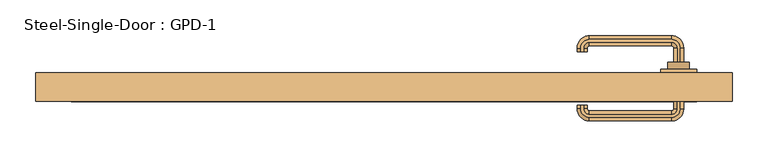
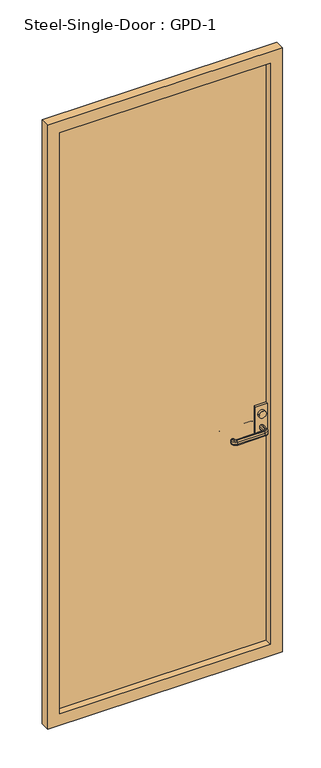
"""IFC4 building model written with IfcOpenShell, lengths in millimetres: door geometry, Steel-Single-Door : GPD-1."""

from ifc_helpers import new_model, si_unit, point, frame, frame_2d, origin, place, context, project, spatial, polyline, circle_curve, ellipse_curve, trimmed, segment, composite_curve, outline, extrude, source, transform, mapped, element, save
from ifc_brep_helpers import plane_surface, cylinder_surface, revolved_surface, advanced_brep


def steel_single_door_gpd_1_6503526e(model_context):
    return source(origin(), model_context, "Body", "SolidModel", [
        extrude(outline(composite_curve([segment(trimmed(circle_curve(frame_2d((1060.1793562, 412.5)), 15.0), [point((1060.1793562, 397.5))], [point((1060.1793562, 427.5))], False, "CARTESIAN"), True, "CONTINUOUS"), segment(trimmed(circle_curve(frame_2d((1060.1793562, 412.5)), 15.0), [point((1060.1793562, 427.5))], [point((1060.1793562, 397.5))], False, "CARTESIAN"), True, "CONTINUOUS")], self_intersect=False)), frame((0.0, 55.0, 0.0), z_axis=(0.0, 1.0, 0.0), x_axis=(0.0, 0.0, 1.0)), (0.0, 0.0, 1.0), 10.0),
        extrude(outline(composite_curve([segment(trimmed(circle_curve(frame_2d((1060.1793562, 412.5)), 15.0), [point((1060.1793562, 427.5))], [point((1060.1793562, 397.5))], False, "CARTESIAN"), True, "CONTINUOUS"), segment(trimmed(circle_curve(frame_2d((1060.1793562, 412.5)), 15.0), [point((1060.1793562, 397.5))], [point((1060.1793562, 427.5))], False, "CARTESIAN"), True, "CONTINUOUS")], self_intersect=False)), frame((0.0, 20.0, 0.0), z_axis=(0.0, 1.0, 0.0), x_axis=(0.0, 0.0, 1.0)), (0.0, 0.0, 1.0), 10.0),
        advanced_brep(
        [(414.5, 55.0, 1010.0), (410.5, 55.0, 1010.0), (405.5, 55.0, 1005.0), (405.5, 55.0, 995.0477623), (410.5, 55.0, 990.0477623), (414.5, 55.0, 990.0477623), (419.5, 55.0, 995.0477623), (419.5, 55.0, 1005.0), (419.5, 85.0, 1005.0), (414.5, 85.0, 1010.0), (419.5, 85.0, 995.0477623), (414.5, 85.0, 990.0477623), (410.5, 85.0, 990.0477623), (402.5, 93.0, 990.0477623), (287.5, 93.0, 990.0477623), (279.5, 85.0, 990.0477623), (279.5, 80.0, 990.0477623), (275.5, 80.0, 990.0477623), (275.5, 85.0, 990.0477623), (287.5, 97.0, 990.0477623), (402.5, 97.0, 990.0477623), (405.5, 85.0, 995.0477623), (405.5, 85.0, 1005.0), (410.5, 85.0, 1010.0), (402.5, 97.0, 1010.0), (287.5, 97.0, 1010.0), (275.5, 85.0, 1010.0), (275.5, 80.0, 1010.0), (279.5, 80.0, 1010.0), (279.5, 85.0, 1010.0), (287.5, 93.0, 1010.0), (402.5, 93.0, 1010.0), (402.5, 102.0, 1005.0), (402.5, 102.0, 995.0477623), (402.5, 88.0, 995.0477623), (402.5, 88.0, 1005.0), (287.5, 102.0, 1005.0), (287.5, 102.0, 995.0477623), (287.5, 88.0, 995.0477623), (287.5, 88.0, 1005.0), (270.5, 85.0, 1005.0), (270.5, 85.0, 995.0477623), (284.5, 85.0, 995.0477623), (284.5, 85.0, 1005.0), (270.5, 80.0, 1005.0), (270.5, 80.0, 995.0477623), (284.5, 80.0, 995.0477623), (284.5, 80.0, 1005.0)],
        [
            (0, 1),
            (1, 2, circle_curve(frame((410.5, 55.0, 1005.0), z_axis=(0.0, -1.0, 0.0), x_axis=(1.0, 0.0, 0.0)), 5.0)),
            (2, 3),
            (3, 4, circle_curve(frame((410.5, 55.0, 995.0477623), z_axis=(0.0, -1.0, 0.0), x_axis=(1.0, 0.0, 0.0)), 5.0)),
            (4, 5),
            (5, 6, circle_curve(frame((414.5, 55.0, 995.0477623), z_axis=(0.0, -1.0, 0.0), x_axis=(1.0, 0.0, 0.0)), 5.0)),
            (6, 7),
            (7, 0, circle_curve(frame((414.5, 55.0, 1005.0), z_axis=(0.0, -1.0, 0.0), x_axis=(1.0, 0.0, 0.0)), 5.0)),
            (7, 8),
            (8, 9, circle_curve(frame((414.5, 85.0, 1005.0), z_axis=(0.0, -1.0, 0.0), x_axis=(1.0, 0.0, 0.0)), 5.0)),
            (9, 0),
            (6, 10),
            (10, 8),
            (5, 11),
            (11, 10, circle_curve(frame((414.5, 85.0, 995.0477623), z_axis=(0.0, -1.0, 0.0), x_axis=(1.0, 0.0, 0.0)), 5.0)),
            (4, 12),
            (12, 13, circle_curve(frame((402.5, 85.0, 990.0477623), z_axis=(0.0, 0.0, 1.0), x_axis=(1.0, 0.0, 0.0)), 8.0)),
            (13, 14),
            (14, 15, circle_curve(frame((287.5, 85.0, 990.0477623), z_axis=(0.0, 0.0, 1.0), x_axis=(0.0, 1.0, 0.0)), 8.0)),
            (15, 16),
            (16, 17),
            (17, 18),
            (18, 19, circle_curve(frame((287.5, 85.0, 990.0477623), z_axis=(0.0, 0.0, -1.0), x_axis=(0.0, 1.0, 0.0)), 12.0)),
            (19, 20),
            (20, 11, circle_curve(frame((402.5, 85.0, 990.0477623), z_axis=(0.0, 0.0, -1.0), x_axis=(1.0, 0.0, 0.0)), 12.0)),
            (3, 21),
            (21, 12, circle_curve(frame((410.5, 85.0, 995.0477623), z_axis=(0.0, -1.0, 0.0), x_axis=(1.0, 0.0, 0.0)), 5.0)),
            (2, 22),
            (22, 21),
            (1, 23),
            (23, 22, circle_curve(frame((410.5, 85.0, 1005.0), z_axis=(0.0, -1.0, 0.0), x_axis=(1.0, 0.0, 0.0)), 5.0)),
            (9, 24, circle_curve(frame((402.5, 85.0, 1010.0), z_axis=(0.0, 0.0, 1.0), x_axis=(1.0, 0.0, 0.0)), 12.0)),
            (24, 25),
            (25, 26, circle_curve(frame((287.5, 85.0, 1010.0), z_axis=(0.0, 0.0, 1.0), x_axis=(0.0, 1.0, 0.0)), 12.0)),
            (26, 27),
            (27, 28),
            (28, 29),
            (29, 30, circle_curve(frame((287.5, 85.0, 1010.0), z_axis=(0.0, 0.0, -1.0), x_axis=(0.0, 1.0, 0.0)), 8.0)),
            (30, 31),
            (31, 23, circle_curve(frame((402.5, 85.0, 1010.0), z_axis=(0.0, 0.0, -1.0), x_axis=(1.0, 0.0, 0.0)), 8.0)),
            (32, 24, circle_curve(frame((402.5, 97.0, 1005.0), z_axis=(1.0, 0.0, 0.0), x_axis=(0.0, 1.0, 0.0)), 5.0)),
            (8, 32, circle_curve(frame((402.5, 85.0, 1005.0), z_axis=(0.0, 0.0, 1.0), x_axis=(1.0, 0.0, 0.0)), 17.0)),
            (33, 32),
            (10, 33, circle_curve(frame((402.5, 85.0, 995.0477623), z_axis=(0.0, 0.0, 1.0), x_axis=(1.0, 0.0, 0.0)), 17.0)),
            (20, 33, circle_curve(frame((402.5, 97.0, 995.0477623), z_axis=(1.0, 0.0, 0.0), x_axis=(0.0, 1.0, 0.0)), 5.0)),
            (34, 13, circle_curve(frame((402.5, 93.0, 995.0477623), z_axis=(1.0, 0.0, 0.0), x_axis=(0.0, 1.0, 0.0)), 5.0)),
            (21, 34, circle_curve(frame((402.5, 85.0, 995.0477623), z_axis=(0.0, 0.0, 1.0), x_axis=(1.0, 0.0, 0.0)), 3.0)),
            (35, 34),
            (22, 35, circle_curve(frame((402.5, 85.0, 1005.0), z_axis=(0.0, 0.0, 1.0), x_axis=(1.0, 0.0, 0.0)), 3.0)),
            (31, 35, circle_curve(frame((402.5, 93.0, 1005.0), z_axis=(1.0, 0.0, 0.0), x_axis=(0.0, 1.0, 0.0)), 5.0)),
            (32, 36),
            (36, 25, circle_curve(frame((287.5, 97.0, 1005.0), z_axis=(1.0, 0.0, 0.0), x_axis=(0.0, 1.0, 0.0)), 5.0)),
            (33, 37),
            (37, 36),
            (19, 37, circle_curve(frame((287.5, 97.0, 995.0477623), z_axis=(1.0, 0.0, 0.0), x_axis=(0.0, 1.0, 0.0)), 5.0)),
            (34, 38),
            (38, 14, circle_curve(frame((287.5, 93.0, 995.0477623), z_axis=(1.0, 0.0, 0.0), x_axis=(0.0, 1.0, 0.0)), 5.0)),
            (35, 39),
            (39, 38),
            (30, 39, circle_curve(frame((287.5, 93.0, 1005.0), z_axis=(1.0, 0.0, 0.0), x_axis=(0.0, 1.0, 0.0)), 5.0)),
            (40, 26, circle_curve(frame((275.5, 85.0, 1005.0), z_axis=(0.0, 1.0, 0.0), x_axis=(-1.0, 0.0, 0.0)), 5.0)),
            (36, 40, circle_curve(frame((287.5, 85.0, 1005.0), z_axis=(0.0, 0.0, 1.0), x_axis=(0.0, 1.0, 0.0)), 17.0)),
            (41, 40),
            (37, 41, circle_curve(frame((287.5, 85.0, 995.0477623), z_axis=(0.0, 0.0, 1.0), x_axis=(0.0, 1.0, 0.0)), 17.0)),
            (18, 41, circle_curve(frame((275.5, 85.0, 995.0477623), z_axis=(0.0, 1.0, 0.0), x_axis=(-1.0, 0.0, 0.0)), 5.0)),
            (42, 15, circle_curve(frame((279.5, 85.0, 995.0477623), z_axis=(0.0, 1.0, 0.0), x_axis=(-1.0, 0.0, 0.0)), 5.0)),
            (38, 42, circle_curve(frame((287.5, 85.0, 995.0477623), z_axis=(0.0, 0.0, 1.0), x_axis=(0.0, 1.0, 0.0)), 3.0)),
            (43, 42),
            (39, 43, circle_curve(frame((287.5, 85.0, 1005.0), z_axis=(0.0, 0.0, 1.0), x_axis=(0.0, 1.0, 0.0)), 3.0)),
            (29, 43, circle_curve(frame((279.5, 85.0, 1005.0), z_axis=(0.0, 1.0, 0.0), x_axis=(-1.0, 0.0, 0.0)), 5.0)),
            (27, 44, circle_curve(frame((275.5, 80.0, 1005.0), z_axis=(0.0, -1.0, 0.0), x_axis=(-1.0, 0.0, 0.0)), 5.0)),
            (44, 45),
            (45, 17, circle_curve(frame((275.5, 80.0, 995.0477623), z_axis=(0.0, -1.0, 0.0), x_axis=(-1.0, 0.0, 0.0)), 5.0)),
            (16, 46, circle_curve(frame((279.5, 80.0, 995.0477623), z_axis=(0.0, -1.0, 0.0), x_axis=(-1.0, 0.0, 0.0)), 5.0)),
            (46, 47),
            (47, 28, circle_curve(frame((279.5, 80.0, 1005.0), z_axis=(0.0, -1.0, 0.0), x_axis=(-1.0, 0.0, 0.0)), 5.0)),
            (40, 44),
            (41, 45),
            (42, 46),
            (43, 47),
        ],
        [
            plane_surface(frame((422.698039, 55.0, 1000.0), z_axis=(0.0, -1.0, 0.0), x_axis=(0.0, 0.0, 1.0))),
            cylinder_surface(frame((414.5, 55.0, 1005.0), z_axis=(0.0, -1.0, 0.0), x_axis=(1.0, 0.0, 0.0)), 5.0),
            plane_surface(frame((419.5, 55.0, 1005.0), z_axis=(1.0, 0.0, 0.0), x_axis=(0.0, 1.0, 0.0))),
            cylinder_surface(frame((414.5, 55.0, 995.0477623), z_axis=(0.0, -1.0, 0.0), x_axis=(1.0, 0.0, 0.0)), 5.0),
            plane_surface(frame((414.5, 55.0, 990.0477623), z_axis=(0.0, 0.0, -1.0), x_axis=(0.0, 1.0, 0.0))),
            cylinder_surface(frame((410.5, 55.0, 995.0477623), z_axis=(0.0, -1.0, 0.0), x_axis=(1.0, 0.0, 0.0)), 5.0),
            plane_surface(frame((405.5, 55.0, 995.0477623), z_axis=(-1.0, 0.0, 0.0), x_axis=(0.0, 1.0, 0.0))),
            cylinder_surface(frame((410.5, 55.0, 1005.0), z_axis=(0.0, -1.0, 0.0), x_axis=(1.0, 0.0, 0.0)), 5.0),
            plane_surface(frame((410.5, 55.0, 1010.0), z_axis=(0.0, 0.0, 1.0), x_axis=(0.0, 1.0, 0.0))),
            revolved_surface(trimmed(ellipse_curve(frame((414.5, 85.0, 1005.0), z_axis=(0.0, 1.0, 0.0), x_axis=(1.0, 0.0, 0.0)), 5.0, 5.0), [point((414.5, 85.0, 1010.0))], [point((419.5, 85.0, 1005.0))], True, "CARTESIAN"), (402.5, 85.0, 1000.0), (0.0, 0.0, -1.0)),
            cylinder_surface(frame((402.5, 85.0, 1000.0), z_axis=(0.0, 0.0, -1.0), x_axis=(1.0, 0.0, 0.0)), 17.0),
            revolved_surface(trimmed(ellipse_curve(frame((414.5, 85.0, 995.0477623), z_axis=(0.0, 1.0, 0.0), x_axis=(1.0, 0.0, 0.0)), 5.0, 5.0), [point((419.5, 85.0, 995.0477623))], [point((414.5, 85.0, 990.0477623))], True, "CARTESIAN"), (402.5, 85.0, 1000.0), (0.0, 0.0, -1.0)),
            revolved_surface(trimmed(ellipse_curve(frame((410.5, 85.0, 995.0477623), z_axis=(0.0, 1.0, 0.0), x_axis=(1.0, 0.0, 0.0)), 5.0, 5.0), [point((410.5, 85.0, 990.0477623))], [point((405.5, 85.0, 995.0477623))], True, "CARTESIAN"), (402.5, 85.0, 1000.0), (0.0, 0.0, -1.0)),
            revolved_surface(polyline([(405.5, 85.0, 995.0477623), (405.5, 85.0, 1005.0)]), (402.5, 85.0, 1000.0), (0.0, 0.0, -1.0)),
            revolved_surface(trimmed(ellipse_curve(frame((410.5, 85.0, 1005.0), z_axis=(0.0, 1.0, 0.0), x_axis=(1.0, 0.0, 0.0)), 5.0, 5.0), [point((405.5, 85.0, 1005.0))], [point((410.5, 85.0, 1010.0))], True, "CARTESIAN"), (402.5, 85.0, 1000.0), (0.0, 0.0, -1.0)),
            cylinder_surface(frame((402.5, 97.0, 1005.0), z_axis=(1.0, 0.0, 0.0), x_axis=(0.0, 1.0, 0.0)), 5.0),
            plane_surface(frame((402.5, 102.0, 1005.0), z_axis=(0.0, 1.0, 0.0), x_axis=(-1.0, 0.0, 0.0))),
            cylinder_surface(frame((402.5, 97.0, 995.0477623), z_axis=(1.0, 0.0, 0.0), x_axis=(0.0, 1.0, 0.0)), 5.0),
            cylinder_surface(frame((402.5, 93.0, 995.0477623), z_axis=(1.0, 0.0, 0.0), x_axis=(0.0, 1.0, 0.0)), 5.0),
            plane_surface(frame((402.5, 88.0, 995.0477623), z_axis=(0.0, -1.0, 0.0), x_axis=(-1.0, 0.0, 0.0))),
            cylinder_surface(frame((402.5, 93.0, 1005.0), z_axis=(1.0, 0.0, 0.0), x_axis=(0.0, 1.0, 0.0)), 5.0),
            revolved_surface(trimmed(ellipse_curve(frame((287.5, 97.0, 1005.0), z_axis=(-1.0, 0.0, 0.0), x_axis=(0.0, 1.0, 0.0)), 5.0, 5.0), [point((287.5, 97.0, 1010.0))], [point((287.5, 102.0, 1005.0))], True, "CARTESIAN"), (287.5, 85.0, 1000.0), (0.0, 0.0, -1.0)),
            cylinder_surface(frame((287.5, 85.0, 1000.0), z_axis=(0.0, 0.0, -1.0), x_axis=(0.0, 1.0, 0.0)), 17.0),
            revolved_surface(trimmed(ellipse_curve(frame((287.5, 97.0, 995.0477623), z_axis=(-1.0, 0.0, 0.0), x_axis=(0.0, 1.0, 0.0)), 5.0, 5.0), [point((287.5, 102.0, 995.0477623))], [point((287.5, 97.0, 990.0477623))], True, "CARTESIAN"), (287.5, 85.0, 1000.0), (0.0, 0.0, -1.0)),
            revolved_surface(trimmed(ellipse_curve(frame((287.5, 93.0, 995.0477623), z_axis=(-1.0, 0.0, 0.0), x_axis=(0.0, 1.0, 0.0)), 5.0, 5.0), [point((287.5, 93.0, 990.0477623))], [point((287.5, 88.0, 995.0477623))], True, "CARTESIAN"), (287.5, 85.0, 1000.0), (0.0, 0.0, -1.0)),
            revolved_surface(polyline([(287.5, 88.0, 995.0477623), (287.5, 88.0, 1005.0)]), (287.5, 85.0, 1000.0), (0.0, 0.0, -1.0)),
            revolved_surface(trimmed(ellipse_curve(frame((287.5, 93.0, 1005.0), z_axis=(-1.0, 0.0, 0.0), x_axis=(0.0, 1.0, 0.0)), 5.0, 5.0), [point((287.5, 88.0, 1005.0))], [point((287.5, 93.0, 1010.0))], True, "CARTESIAN"), (287.5, 85.0, 1000.0), (0.0, 0.0, -1.0)),
            plane_surface(frame((287.698039, 80.0, 1000.0), z_axis=(0.0, -1.0, 0.0), x_axis=(0.0, 0.0, -1.0))),
            cylinder_surface(frame((275.5, 85.0, 1005.0), z_axis=(0.0, 1.0, 0.0), x_axis=(-1.0, 0.0, 0.0)), 5.0),
            plane_surface(frame((270.5, 85.0, 1005.0), z_axis=(-1.0, 0.0, 0.0), x_axis=(0.0, -1.0, 0.0))),
            cylinder_surface(frame((275.5, 85.0, 995.0477623), z_axis=(0.0, 1.0, 0.0), x_axis=(-1.0, 0.0, 0.0)), 5.0),
            cylinder_surface(frame((279.5, 85.0, 995.0477623), z_axis=(0.0, 1.0, 0.0), x_axis=(-1.0, 0.0, 0.0)), 5.0),
            plane_surface(frame((284.5, 85.0, 995.0477623), z_axis=(1.0, 0.0, 0.0), x_axis=(0.0, -1.0, 0.0))),
            cylinder_surface(frame((279.5, 85.0, 1005.0), z_axis=(0.0, 1.0, 0.0), x_axis=(-1.0, 0.0, 0.0)), 5.0),
        ],
        [
            (0, [[1, 2, 3, 4, 5, 6, 7, 8]]),
            (1, [[9, 10, 11, -8]]),
            (2, [[12, 13, -9, -7]]),
            (3, [[14, 15, -12, -6]]),
            (4, [[16, 17, 18, 19, 20, 21, 22, 23, 24, 25, -14, -5]]),
            (5, [[26, 27, -16, -4]]),
            (6, [[28, 29, -26, -3]]),
            (7, [[30, 31, -28, -2]]),
            (8, [[-11, 32, 33, 34, 35, 36, 37, 38, 39, 40, -30, -1]]),
            (9, [[41, -32, -10, 42]]),
            (10, [[43, -42, -13, 44]]),
            (11, [[45, -44, -15, -25]]),
            (12, [[46, -17, -27, 47]]),
            (13, [[48, -47, -29, 49]]),
            (14, [[50, -49, -31, -40]]),
            (15, [[51, 52, -33, -41]]),
            (16, [[53, 54, -51, -43]]),
            (17, [[-24, 55, -53, -45]]),
            (18, [[56, 57, -18, -46]]),
            (19, [[58, 59, -56, -48]]),
            (20, [[-39, 60, -58, -50]]),
            (21, [[61, -34, -52, 62]]),
            (22, [[63, -62, -54, 64]]),
            (23, [[65, -64, -55, -23]]),
            (24, [[66, -19, -57, 67]]),
            (25, [[68, -67, -59, 69]]),
            (26, [[70, -69, -60, -38]]),
            (27, [[71, 72, 73, -21, 74, 75, 76, -36]]),
            (28, [[77, -71, -35, -61]]),
            (29, [[78, -72, -77, -63]]),
            (30, [[-22, -73, -78, -65]]),
            (31, [[79, -74, -20, -66]]),
            (32, [[80, -75, -79, -68]]),
            (33, [[-37, -76, -80, -70]]),
        ],
    ),
        advanced_brep(
        [(410.5, 30.0, 990.0), (405.5, 30.0, 995.0), (405.5, 30.0, 1005.0), (410.5, 30.0, 1010.0), (414.5, 30.0, 1010.0), (419.5, 30.0, 1005.0), (419.5, 30.0, 995.0), (414.5, 30.0, 990.0), (414.5, 0.0, 990.0), (402.5, -12.0, 990.0), (287.5, -12.0, 990.0), (275.5, 0.0, 990.0), (275.5, 5.0, 990.0), (279.5, 5.0, 990.0), (279.5, 0.0, 990.0), (287.5, -8.0, 990.0), (402.5, -8.0, 990.0), (410.5, 0.0, 990.0), (419.5, 0.0, 995.0), (419.5, 0.0, 1005.0), (414.5, 0.0, 1010.0), (410.5, 0.0, 1010.0), (402.5, -8.0, 1010.0), (287.5, -8.0, 1010.0), (279.5, 0.0, 1010.0), (279.5, 5.0, 1010.0), (275.5, 5.0, 1010.0), (275.5, 0.0, 1010.0), (287.5, -12.0, 1010.0), (402.5, -12.0, 1010.0), (405.5, 0.0, 1005.0), (405.5, 0.0, 995.0), (402.5, -17.0, 995.0), (402.5, -17.0, 1005.0), (402.5, -3.0, 1005.0), (402.5, -3.0, 995.0), (287.5, -17.0, 995.0), (287.5, -17.0, 1005.0), (287.5, -3.0, 1005.0), (287.5, -3.0, 995.0), (270.5, 0.0, 995.0), (270.5, 0.0, 1005.0), (284.5, 0.0, 1005.0), (284.5, 0.0, 995.0), (270.5, 5.0, 995.0), (270.5, 5.0, 1005.0), (284.5, 5.0, 1005.0), (284.5, 5.0, 995.0)],
        [
            (0, 1, circle_curve(frame((410.5, 30.0, 995.0), z_axis=(0.0, 1.0, 0.0), x_axis=(-1.0, 0.0, 0.0)), 5.0)),
            (1, 2),
            (2, 3, circle_curve(frame((410.5, 30.0, 1005.0), z_axis=(0.0, 1.0, 0.0), x_axis=(-1.0, 0.0, 0.0)), 5.0)),
            (3, 4),
            (4, 5, circle_curve(frame((414.5, 30.0, 1005.0), z_axis=(0.0, 1.0, 0.0), x_axis=(-1.0, 0.0, 0.0)), 5.0)),
            (5, 6),
            (6, 7, circle_curve(frame((414.5, 30.0, 995.0), z_axis=(0.0, 1.0, 0.0), x_axis=(-1.0, 0.0, 0.0)), 5.0)),
            (7, 0),
            (7, 8),
            (8, 9, circle_curve(frame((402.5, 0.0, 990.0), z_axis=(0.0, 0.0, -1.0), x_axis=(1.0, 0.0, 0.0)), 12.0)),
            (9, 10),
            (10, 11, circle_curve(frame((287.5, 0.0, 990.0), z_axis=(0.0, 0.0, -1.0), x_axis=(0.0, -1.0, 0.0)), 12.0)),
            (11, 12),
            (12, 13),
            (13, 14),
            (14, 15, circle_curve(frame((287.5, 0.0, 990.0), z_axis=(0.0, 0.0, 1.0), x_axis=(0.0, -1.0, 0.0)), 8.0)),
            (15, 16),
            (16, 17, circle_curve(frame((402.5, 0.0, 990.0), z_axis=(0.0, 0.0, 1.0), x_axis=(1.0, 0.0, 0.0)), 8.0)),
            (17, 0),
            (6, 18),
            (18, 8, circle_curve(frame((414.5, 0.0, 995.0), z_axis=(0.0, 1.0, 0.0), x_axis=(-1.0, 0.0, 0.0)), 5.0)),
            (5, 19),
            (19, 18),
            (4, 20),
            (20, 19, circle_curve(frame((414.5, 0.0, 1005.0), z_axis=(0.0, 1.0, 0.0), x_axis=(-1.0, 0.0, 0.0)), 5.0)),
            (3, 21),
            (21, 22, circle_curve(frame((402.5, 0.0, 1010.0), z_axis=(0.0, 0.0, -1.0), x_axis=(1.0, 0.0, 0.0)), 8.0)),
            (22, 23),
            (23, 24, circle_curve(frame((287.5, 0.0, 1010.0), z_axis=(0.0, 0.0, -1.0), x_axis=(0.0, -1.0, 0.0)), 8.0)),
            (24, 25),
            (25, 26),
            (26, 27),
            (27, 28, circle_curve(frame((287.5, 0.0, 1010.0), z_axis=(0.0, 0.0, 1.0), x_axis=(0.0, -1.0, 0.0)), 12.0)),
            (28, 29),
            (29, 20, circle_curve(frame((402.5, 0.0, 1010.0), z_axis=(0.0, 0.0, 1.0), x_axis=(1.0, 0.0, 0.0)), 12.0)),
            (2, 30),
            (30, 21, circle_curve(frame((410.5, 0.0, 1005.0), z_axis=(0.0, 1.0, 0.0), x_axis=(-1.0, 0.0, 0.0)), 5.0)),
            (1, 31),
            (31, 30),
            (17, 31, circle_curve(frame((410.5, 0.0, 995.0), z_axis=(0.0, 1.0, 0.0), x_axis=(-1.0, 0.0, 0.0)), 5.0)),
            (32, 9, circle_curve(frame((402.5, -12.0, 995.0), z_axis=(1.0, 0.0, 0.0), x_axis=(0.0, 1.0, 0.0)), 5.0)),
            (18, 32, circle_curve(frame((402.5, 0.0, 995.0), z_axis=(0.0, 0.0, -1.0), x_axis=(1.0, 0.0, 0.0)), 17.0)),
            (33, 32),
            (19, 33, circle_curve(frame((402.5, 0.0, 1005.0), z_axis=(0.0, 0.0, -1.0), x_axis=(1.0, 0.0, 0.0)), 17.0)),
            (29, 33, circle_curve(frame((402.5, -12.0, 1005.0), z_axis=(1.0, 0.0, 0.0), x_axis=(0.0, 1.0, 0.0)), 5.0)),
            (34, 22, circle_curve(frame((402.5, -8.0, 1005.0), z_axis=(1.0, 0.0, 0.0), x_axis=(0.0, 1.0, 0.0)), 5.0)),
            (30, 34, circle_curve(frame((402.5, 0.0, 1005.0), z_axis=(0.0, 0.0, -1.0), x_axis=(1.0, 0.0, 0.0)), 3.0)),
            (35, 34),
            (31, 35, circle_curve(frame((402.5, 0.0, 995.0), z_axis=(0.0, 0.0, -1.0), x_axis=(1.0, 0.0, 0.0)), 3.0)),
            (16, 35, circle_curve(frame((402.5, -8.0, 995.0), z_axis=(1.0, 0.0, 0.0), x_axis=(0.0, 1.0, 0.0)), 5.0)),
            (32, 36),
            (36, 10, circle_curve(frame((287.5, -12.0, 995.0), z_axis=(1.0, 0.0, 0.0), x_axis=(0.0, 1.0, 0.0)), 5.0)),
            (33, 37),
            (37, 36),
            (28, 37, circle_curve(frame((287.5, -12.0, 1005.0), z_axis=(1.0, 0.0, 0.0), x_axis=(0.0, 1.0, 0.0)), 5.0)),
            (34, 38),
            (38, 23, circle_curve(frame((287.5, -8.0, 1005.0), z_axis=(1.0, 0.0, 0.0), x_axis=(0.0, 1.0, 0.0)), 5.0)),
            (35, 39),
            (39, 38),
            (15, 39, circle_curve(frame((287.5, -8.0, 995.0), z_axis=(1.0, 0.0, 0.0), x_axis=(0.0, 1.0, 0.0)), 5.0)),
            (40, 11, circle_curve(frame((275.5, 0.0, 995.0), z_axis=(0.0, -1.0, 0.0), x_axis=(1.0, 0.0, 0.0)), 5.0)),
            (36, 40, circle_curve(frame((287.5, 0.0, 995.0), z_axis=(0.0, 0.0, -1.0), x_axis=(0.0, -1.0, 0.0)), 17.0)),
            (41, 40),
            (37, 41, circle_curve(frame((287.5, 0.0, 1005.0), z_axis=(0.0, 0.0, -1.0), x_axis=(0.0, -1.0, 0.0)), 17.0)),
            (27, 41, circle_curve(frame((275.5, 0.0, 1005.0), z_axis=(0.0, -1.0, 0.0), x_axis=(1.0, 0.0, 0.0)), 5.0)),
            (42, 24, circle_curve(frame((279.5, 0.0, 1005.0), z_axis=(0.0, -1.0, 0.0), x_axis=(1.0, 0.0, 0.0)), 5.0)),
            (38, 42, circle_curve(frame((287.5, 0.0, 1005.0), z_axis=(0.0, 0.0, -1.0), x_axis=(0.0, -1.0, 0.0)), 3.0)),
            (43, 42),
            (39, 43, circle_curve(frame((287.5, 0.0, 995.0), z_axis=(0.0, 0.0, -1.0), x_axis=(0.0, -1.0, 0.0)), 3.0)),
            (14, 43, circle_curve(frame((279.5, 0.0, 995.0), z_axis=(0.0, -1.0, 0.0), x_axis=(1.0, 0.0, 0.0)), 5.0)),
            (12, 44, circle_curve(frame((275.5, 5.0, 995.0), z_axis=(0.0, 1.0, 0.0), x_axis=(1.0, 0.0, 0.0)), 5.0)),
            (44, 45),
            (45, 26, circle_curve(frame((275.5, 5.0, 1005.0), z_axis=(0.0, 1.0, 0.0), x_axis=(1.0, 0.0, 0.0)), 5.0)),
            (25, 46, circle_curve(frame((279.5, 5.0, 1005.0), z_axis=(0.0, 1.0, 0.0), x_axis=(1.0, 0.0, 0.0)), 5.0)),
            (46, 47),
            (47, 13, circle_curve(frame((279.5, 5.0, 995.0), z_axis=(0.0, 1.0, 0.0), x_axis=(1.0, 0.0, 0.0)), 5.0)),
            (40, 44),
            (41, 45),
            (42, 46),
            (43, 47),
        ],
        [
            plane_surface(frame((422.698039, 30.0, 1000.0), z_axis=(0.0, 1.0, 0.0), x_axis=(0.0, 0.0, -1.0))),
            plane_surface(frame((410.5, 30.0, 990.0), z_axis=(0.0, 0.0, -1.0), x_axis=(0.0, -1.0, 0.0))),
            cylinder_surface(frame((414.5, 30.0, 995.0), z_axis=(0.0, 1.0, 0.0), x_axis=(-1.0, 0.0, 0.0)), 5.0),
            plane_surface(frame((419.5, 30.0, 995.0), z_axis=(1.0, 0.0, 0.0), x_axis=(0.0, -1.0, 0.0))),
            cylinder_surface(frame((414.5, 30.0, 1005.0), z_axis=(0.0, 1.0, 0.0), x_axis=(-1.0, 0.0, 0.0)), 5.0),
            plane_surface(frame((414.5, 30.0, 1010.0), z_axis=(0.0, 0.0, 1.0), x_axis=(0.0, -1.0, 0.0))),
            cylinder_surface(frame((410.5, 30.0, 1005.0), z_axis=(0.0, 1.0, 0.0), x_axis=(-1.0, 0.0, 0.0)), 5.0),
            plane_surface(frame((405.5, 30.0, 1005.0), z_axis=(-1.0, 0.0, 0.0), x_axis=(0.0, -1.0, 0.0))),
            cylinder_surface(frame((410.5, 30.0, 995.0), z_axis=(0.0, 1.0, 0.0), x_axis=(-1.0, 0.0, 0.0)), 5.0),
            revolved_surface(trimmed(ellipse_curve(frame((414.5, 0.0, 995.0), z_axis=(0.0, -1.0, 0.0), x_axis=(-1.0, 0.0, 0.0)), 5.0, 5.0), [point((414.5, 0.0, 990.0))], [point((419.5, 0.0, 995.0))], True, "CARTESIAN"), (402.5, 0.0, 1000.0), (0.0, 0.0, 1.0)),
            cylinder_surface(frame((402.5, 0.0, 1000.0), z_axis=(0.0, 0.0, 1.0), x_axis=(1.0, 0.0, 0.0)), 17.0),
            revolved_surface(trimmed(ellipse_curve(frame((414.5, 0.0, 1005.0), z_axis=(0.0, -1.0, 0.0), x_axis=(-1.0, 0.0, 0.0)), 5.0, 5.0), [point((419.5, 0.0, 1005.0))], [point((414.5, 0.0, 1010.0))], True, "CARTESIAN"), (402.5, 0.0, 1000.0), (0.0, 0.0, 1.0)),
            revolved_surface(trimmed(ellipse_curve(frame((410.5, 0.0, 1005.0), z_axis=(0.0, -1.0, 0.0), x_axis=(-1.0, 0.0, 0.0)), 5.0, 5.0), [point((410.5, 0.0, 1010.0))], [point((405.5, 0.0, 1005.0))], True, "CARTESIAN"), (402.5, 0.0, 1000.0), (0.0, 0.0, 1.0)),
            revolved_surface(polyline([(405.5, 0.0, 1005.0), (405.5, 0.0, 995.0)]), (402.5, 0.0, 1000.0), (0.0, 0.0, 1.0)),
            revolved_surface(trimmed(ellipse_curve(frame((410.5, 0.0, 995.0), z_axis=(0.0, -1.0, 0.0), x_axis=(-1.0, 0.0, 0.0)), 5.0, 5.0), [point((405.5, 0.0, 995.0))], [point((410.5, 0.0, 990.0))], True, "CARTESIAN"), (402.5, 0.0, 1000.0), (0.0, 0.0, 1.0)),
            cylinder_surface(frame((402.5, -12.0, 995.0), z_axis=(1.0, 0.0, 0.0), x_axis=(0.0, 1.0, 0.0)), 5.0),
            plane_surface(frame((402.5, -17.0, 995.0), z_axis=(0.0, -1.0, 0.0), x_axis=(-1.0, 0.0, 0.0))),
            cylinder_surface(frame((402.5, -12.0, 1005.0), z_axis=(1.0, 0.0, 0.0), x_axis=(0.0, 1.0, 0.0)), 5.0),
            cylinder_surface(frame((402.5, -8.0, 1005.0), z_axis=(1.0, 0.0, 0.0), x_axis=(0.0, 1.0, 0.0)), 5.0),
            plane_surface(frame((402.5, -3.0, 1005.0), z_axis=(0.0, 1.0, 0.0), x_axis=(-1.0, 0.0, 0.0))),
            cylinder_surface(frame((402.5, -8.0, 995.0), z_axis=(1.0, 0.0, 0.0), x_axis=(0.0, 1.0, 0.0)), 5.0),
            revolved_surface(trimmed(ellipse_curve(frame((287.5, -12.0, 995.0), z_axis=(-1.0, 0.0, 0.0), x_axis=(0.0, 1.0, 0.0)), 5.0, 5.0), [point((287.5, -12.0, 990.0))], [point((287.5, -17.0, 995.0))], True, "CARTESIAN"), (287.5, 0.0, 1000.0), (0.0, 0.0, 1.0)),
            cylinder_surface(frame((287.5, 0.0, 1000.0), z_axis=(0.0, 0.0, 1.0), x_axis=(0.0, -1.0, 0.0)), 17.0),
            revolved_surface(trimmed(ellipse_curve(frame((287.5, -12.0, 1005.0), z_axis=(-1.0, 0.0, 0.0), x_axis=(0.0, 1.0, 0.0)), 5.0, 5.0), [point((287.5, -17.0, 1005.0))], [point((287.5, -12.0, 1010.0))], True, "CARTESIAN"), (287.5, 0.0, 1000.0), (0.0, 0.0, 1.0)),
            revolved_surface(trimmed(ellipse_curve(frame((287.5, -8.0, 1005.0), z_axis=(-1.0, 0.0, 0.0), x_axis=(0.0, 1.0, 0.0)), 5.0, 5.0), [point((287.5, -8.0, 1010.0))], [point((287.5, -3.0, 1005.0))], True, "CARTESIAN"), (287.5, 0.0, 1000.0), (0.0, 0.0, 1.0)),
            revolved_surface(polyline([(287.5, -3.0, 1005.0), (287.5, -3.0, 995.0)]), (287.5, 0.0, 1000.0), (0.0, 0.0, 1.0)),
            revolved_surface(trimmed(ellipse_curve(frame((287.5, -8.0, 995.0), z_axis=(-1.0, 0.0, 0.0), x_axis=(0.0, 1.0, 0.0)), 5.0, 5.0), [point((287.5, -3.0, 995.0))], [point((287.5, -8.0, 990.0))], True, "CARTESIAN"), (287.5, 0.0, 1000.0), (0.0, 0.0, 1.0)),
            plane_surface(frame((287.698039, 5.0, 1000.0), z_axis=(0.0, 1.0, 0.0), x_axis=(0.0, 0.0, 1.0))),
            cylinder_surface(frame((275.5, 0.0, 995.0), z_axis=(0.0, -1.0, 0.0), x_axis=(1.0, 0.0, 0.0)), 5.0),
            plane_surface(frame((270.5, 0.0, 995.0), z_axis=(-1.0, 0.0, 0.0), x_axis=(0.0, 1.0, 0.0))),
            cylinder_surface(frame((275.5, 0.0, 1005.0), z_axis=(0.0, -1.0, 0.0), x_axis=(1.0, 0.0, 0.0)), 5.0),
            cylinder_surface(frame((279.5, 0.0, 1005.0), z_axis=(0.0, -1.0, 0.0), x_axis=(1.0, 0.0, 0.0)), 5.0),
            plane_surface(frame((284.5, 0.0, 1005.0), z_axis=(1.0, 0.0, 0.0), x_axis=(0.0, 1.0, 0.0))),
            cylinder_surface(frame((279.5, 0.0, 995.0), z_axis=(0.0, -1.0, 0.0), x_axis=(1.0, 0.0, 0.0)), 5.0),
        ],
        [
            (0, [[1, 2, 3, 4, 5, 6, 7, 8]]),
            (1, [[9, 10, 11, 12, 13, 14, 15, 16, 17, 18, 19, -8]]),
            (2, [[20, 21, -9, -7]]),
            (3, [[22, 23, -20, -6]]),
            (4, [[24, 25, -22, -5]]),
            (5, [[26, 27, 28, 29, 30, 31, 32, 33, 34, 35, -24, -4]]),
            (6, [[36, 37, -26, -3]]),
            (7, [[38, 39, -36, -2]]),
            (8, [[-19, 40, -38, -1]]),
            (9, [[41, -10, -21, 42]]),
            (10, [[43, -42, -23, 44]]),
            (11, [[45, -44, -25, -35]]),
            (12, [[46, -27, -37, 47]]),
            (13, [[48, -47, -39, 49]]),
            (14, [[50, -49, -40, -18]]),
            (15, [[51, 52, -11, -41]]),
            (16, [[53, 54, -51, -43]]),
            (17, [[-34, 55, -53, -45]]),
            (18, [[56, 57, -28, -46]]),
            (19, [[58, 59, -56, -48]]),
            (20, [[-17, 60, -58, -50]]),
            (21, [[61, -12, -52, 62]]),
            (22, [[63, -62, -54, 64]]),
            (23, [[65, -64, -55, -33]]),
            (24, [[66, -29, -57, 67]]),
            (25, [[68, -67, -59, 69]]),
            (26, [[70, -69, -60, -16]]),
            (27, [[-14, 71, 72, 73, -31, 74, 75, 76]]),
            (28, [[77, -71, -13, -61]]),
            (29, [[78, -72, -77, -63]]),
            (30, [[-32, -73, -78, -65]]),
            (31, [[79, -74, -30, -66]]),
            (32, [[80, -75, -79, -68]]),
            (33, [[-15, -76, -80, -70]]),
        ],
    ),
        extrude(outline(polyline([(387.5, 45.0), (387.5, 55.0), (437.5, 55.0), (437.5, 45.0), (387.5, 45.0)])), frame((0.0, 0.0, 975.0), z_axis=(0.0, 0.0, 1.0), x_axis=(1.0, 0.0, 0.0)), (0.0, 0.0, 1.0), 120.1793562),
        extrude(outline(polyline([(387.5, 30.0), (387.5, 40.0), (437.5, 40.0), (437.5, 30.0), (387.5, 30.0)])), frame((0.0, 0.0, 975.0), z_axis=(0.0, 0.0, 1.0), x_axis=(1.0, 0.0, 0.0)), (0.0, 0.0, 1.0), 120.1793562),
        extrude(outline(polyline([(-437.5, 45.0), (437.5, 45.0), (437.5, 40.0), (-437.5, 40.0), (-437.5, 45.0)])), frame((0.0, 0.0, 50.0), z_axis=(0.0, 0.0, 1.0), x_axis=(1.0, 0.0, 0.0)), (0.0, 0.0, 1.0), 2550.0),
        extrude(outline(polyline([(0.0, -487.5), (0.0, 487.5), (2650.0, 487.5), (2650.0, -487.5), (0.0, -487.5)]), holes=[polyline([(50.0, -437.5), (2600.0, -437.5), (2600.0, 437.5), (50.0, 437.5), (50.0, -437.5)])]), frame((0.0, 10.0, 0.0), z_axis=(0.0, 1.0, 0.0), x_axis=(0.0, 0.0, 1.0)), (0.0, 0.0, 1.0), 40.0),
    ])


if __name__ == "__main__":
    model = new_model("IFC4")
    model_context = context("Model", 3, world=origin())
    ifc_project = project(units=[si_unit("LENGTHUNIT", "METRE", prefix="MILLI")], contexts=[model_context])
    site = spatial("IfcSite", under=ifc_project)
    building = spatial("IfcBuilding", under=site)
    placement = place(None, origin())
    steel_single_door_gpd_1_shape = steel_single_door_gpd_1_6503526e(model_context)
    element("IfcDoor", 1, ObjectType="Steel-Single-Door : GPD-1", at=placement, inside=building, context=model_context, shape_type="MappedRepresentation", body=[
        mapped(steel_single_door_gpd_1_shape, transform((0.0, 0.0, 0.0), x_axis=(1.0, 0.0, 0.0), y_axis=(0.0, 1.0, 0.0), z_axis=(0.0, 0.0, 1.0))),
    ])
    save(model, "model.ifc")
